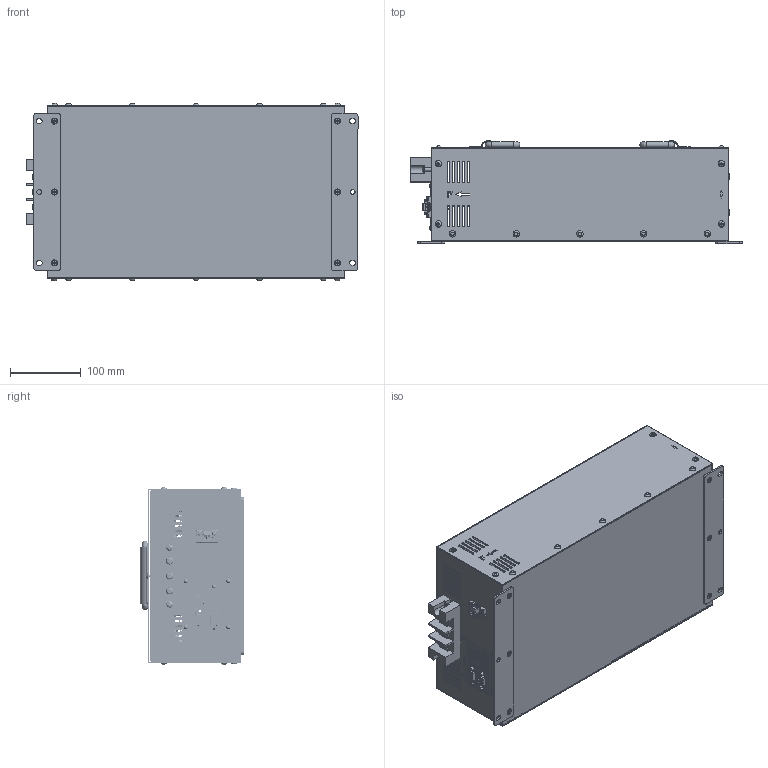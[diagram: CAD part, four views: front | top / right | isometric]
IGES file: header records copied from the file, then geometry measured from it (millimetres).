
Global section: file name: VX3COM_HANDLE2; native system: Autodesk Inventor 2021; preprocessor: unknown; author: eunsol jang; date: 20250702.110339; units: inch
Bounding box: 468 x 145.25 x 250.09 mm (x, y, z)
Volume: 748363.3 mm3; surface area: 928355.8 mm2
Topology: 15 solids, 15 shells, 4544 faces, 13549 edges, 9395 vertices
Faces by surface type: bspline 4544
